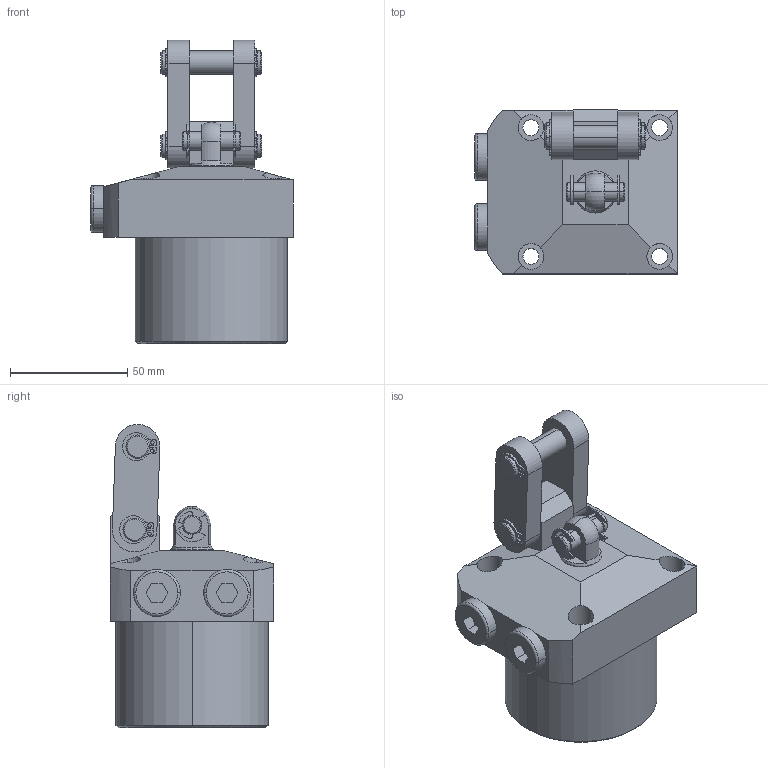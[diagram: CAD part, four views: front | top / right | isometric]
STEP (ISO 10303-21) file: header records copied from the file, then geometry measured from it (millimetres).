
FILE_DESCRIPTION (( 'STEP AP203' ), '1' );
FILE_NAME ('4171 521 L.STEP', '2017-11-25T06:07:49', ( '' ), ( '' ), 'SwSTEP 2.0', 'SolidWorks 2015', '' );
FILE_SCHEMA (( 'CONFIG_CONTROL_DESIGN' ));
Length unit declared in the file: millimetre
Products named in the file (8): BODY_4171 521 L; PR; LINK; PIN 2; PIN 1; (type e)_is_IS 3075(Part3) - 7; (normal) external_is_IS 3075 NE- 10; 4171 521 L
Assembly tree (13 placements, depth 2):
  4171 521 L
    BODY_4171 521 L
    PR
    LINK  x2
    PIN 2  x2
    PIN 1
    (type e)_is_IS 3075(Part3) - 7  x2
    (normal) external_is_IS 3075 NE- 10  x4
Bounding box: 86.5 x 70 x 129.47 mm (x, y, z)
Volume: 329659.9 mm3; surface area: 50337 mm2
Topology: 13 solids, 13 shells, 347 faces, 861 edges, 553 vertices
Faces by surface type: cylinder 178, plane 123, cone 40, torus 4, sphere 2
Entity records: 7741 total; most frequent: CARTESIAN_POINT 1305, DIRECTION 1229, ORIENTED_EDGE 1078, EDGE_CURVE 539, AXIS2_PLACEMENT_3D 479, VERTEX_POINT 343, VECTOR 271, LINE 271
